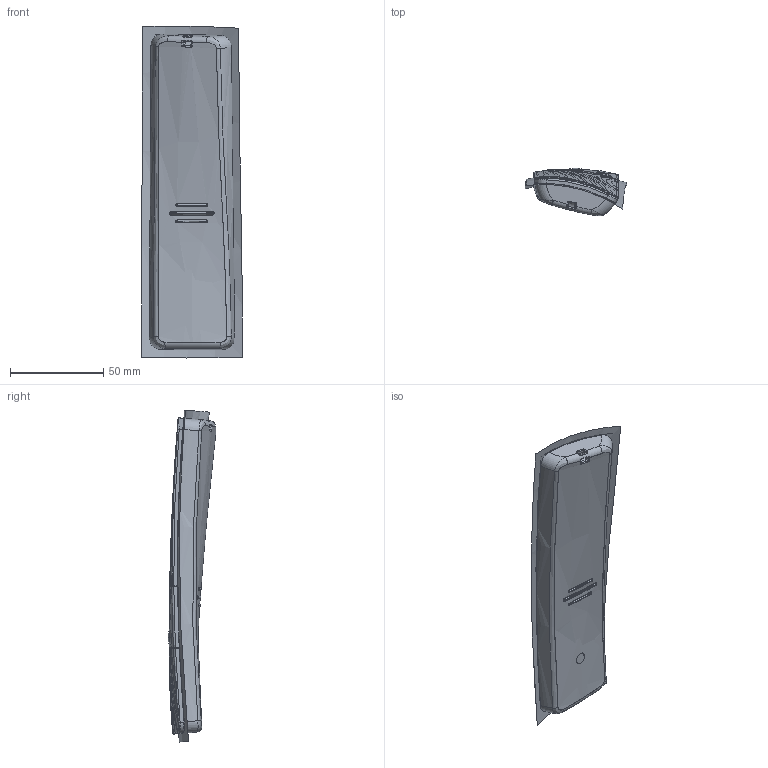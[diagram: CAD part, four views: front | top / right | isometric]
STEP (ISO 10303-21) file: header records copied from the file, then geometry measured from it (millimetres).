
FILE_DESCRIPTION((''),'2;1');
FILE_NAME('HC40_TWIST_STANDARD_STEP','2019-04-11T14:37:44',('bs'),(''),'CREO PARAMETRIC BY PTC INC, 2018400','CREO PARAMETRIC BY PTC INC, 2018400','');
FILE_SCHEMA(('CONFIG_CONTROL_DESIGN','SHAPE_APPEARANCE_LAYERS_GROUPS'));
Products named in the file (1): HC40_TWIST_STANDARD_STEP
Bounding box: 54.2 x 25.68 x 177.85 mm (x, y, z)
Volume: 102680.1 mm3; surface area: 124386.8 mm2
Topology: 1 solids, 139 shells, 1714 faces, 5720 edges, 4150 vertices
Faces by surface type: bspline 733, plane 468, extrusion 271, cylinder 143, torus 65, sphere 22, cone 12
Entity records: 144339 total; most frequent: CARTESIAN_POINT 85199, ORIENTED_EDGE 9636, PRESENTATION_STYLE_ASSIGNMENT 5970, STYLED_ITEM 5840, CURVE_STYLE 5700, EDGE_CURVE 5700, DIRECTION 4419, VERTEX_POINT 4150
